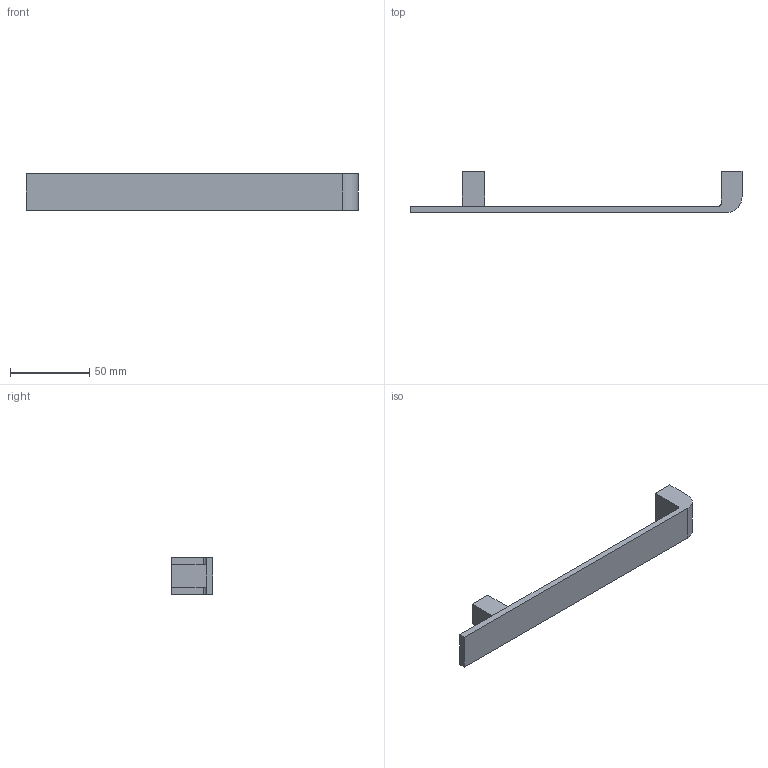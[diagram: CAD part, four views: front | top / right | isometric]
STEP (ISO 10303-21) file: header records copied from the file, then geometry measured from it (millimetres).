
FILE_DESCRIPTION( ( '' ), '1' );
FILE_NAME( 'D:/1.AUTOCAD EXPORT/Group 10/sheet_10_1/9097973.stp', '2013-10-18T05:49:20', ( '' ), ( '' ), ' ', ' ', ' ' );
FILE_SCHEMA( ( 'automotive_design' ) );
Length unit declared in the file: millimetre
Products named in the file (1): 1
Bounding box: 209 x 26 x 23 mm (x, y, z)
Volume: 29751.1 mm3; surface area: 14371.4 mm2
Topology: 1 solids, 1 shells, 21 faces, 48 edges, 32 vertices
Faces by surface type: plane 15, cylinder 6
Entity records: 1186 total; most frequent: DIRECTION 104, STYLED_ITEM 102, PRESENTATION_STYLE_ASSIGNMENT 102, CARTESIAN_POINT 102, COLOUR_RGB 102, ORIENTED_EDGE 96, EDGE_CURVE 48, CURVE_STYLE 48
